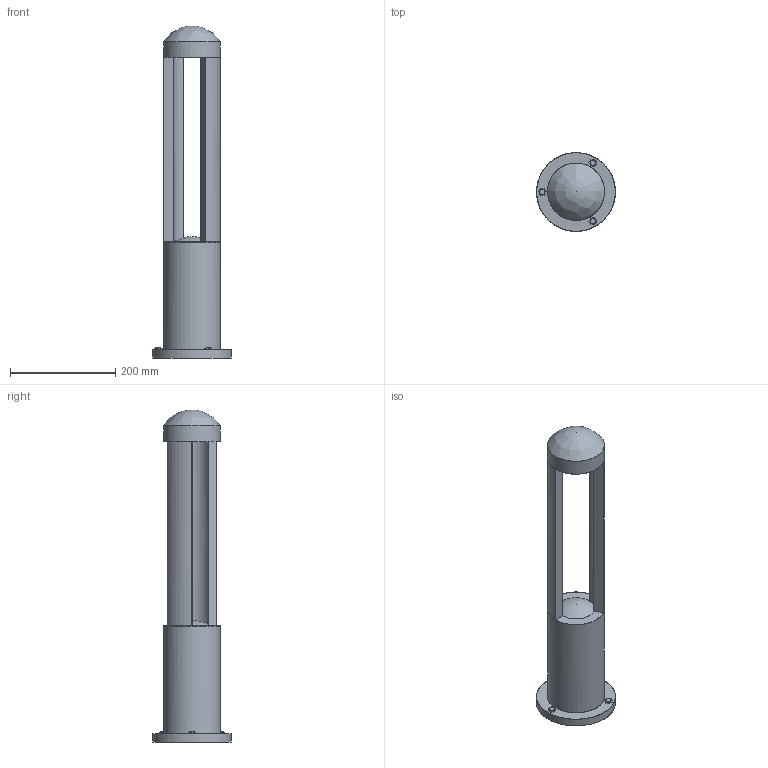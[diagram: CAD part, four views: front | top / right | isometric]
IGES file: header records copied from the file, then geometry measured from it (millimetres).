
Start section: SolidWorks IGES file using NURBS representation for surfaces
Global section: file name: Z:\Modele 3D_WWW\_KOLEKCJE_WWW\MONTERREY-LED-9507\MONTERREY-LED-9507.IGS; native system: SolidWorks 2021; preprocessor: SolidWorks 2021; author: gabriela.tworek; date: 211123.132403; units: millimetre
Bounding box: 150 x 149.95 x 630.7 mm (x, y, z)
Surface area: 253251.7 mm2 (no closed solid volume)
Topology: 0 solids, 0 shells, 79 faces, 359 edges, 336 vertices
Faces by surface type: bspline 79
